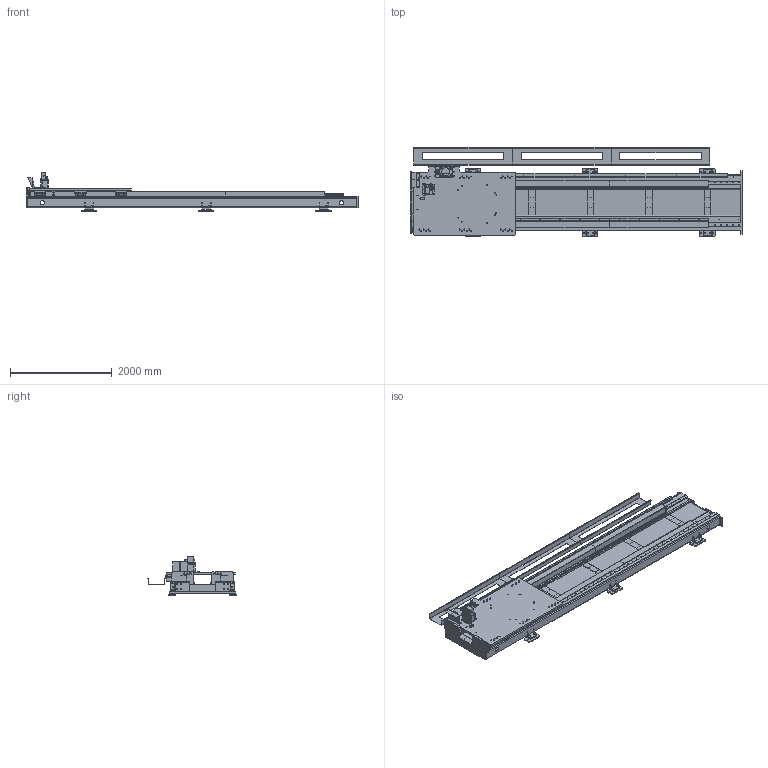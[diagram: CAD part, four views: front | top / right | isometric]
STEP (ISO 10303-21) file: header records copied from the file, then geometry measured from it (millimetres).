
FILE_DESCRIPTION (( 'STEP AP203' ), '1' );
FILE_NAME ('梓袧4000kg迍蟈俋离唳.STEP', '2021-10-27T02:24:30', ( '' ), ( '' ), 'SwSTEP 2.0', 'SolidWorks 2018', '' );
FILE_SCHEMA (( 'CONFIG_CONTROL_DESIGN' ));
Products named in the file (42): 峚雄羲壽假蚾啣; 華寢蟀諉啣; 13.5Ã×YAE-A1-03L263; 重载减速机安装板1; 寥錨硌尨啣-1; 13.5米润滑; 润滑齿轮配件; 19.5譙菁窒遺殤6500-1; circlips for shaft--type a large gb_GB_CONNECTING_PIECE_RING_RRA 12; hex thin nuts-grades ab-chamfered gb_GB_FASTENER_NUT_STNAB M10-N; 1譙喘沭滅誘鍼踢; 13.5米润滑齿轮轴; 13.5譙65-45樓Ч踐; 13.5譙笢潔撻倛奪; 錨璃1; 笭婥華寢覃誹啣; 19.5譙迍蟈羞; 13.5譙華寢華褐; 19.5譙萇儂假蚾啣; 匐粣迍蟈蟀諉啣; 19.5米ST02机器人载板; 13.5譙俴最羲壽; 19.5譙寢耋爾諉遺殤; 13.5譙煦蚐ん; 梓袧4000kg迍蟈俋离唳; 13.5譙華褐啣; 13.5譙滅袉菜; 13.5譙M20蹟裝; 19.5譙樓詢U倰輸; 1950絳寢誘欶; 13.5譙華褐菜啣; SHS55LC賑輸; 重载地轨齿轮防护板; 19.5譙絳寢假蚾啣-1; 19.5米导轨齿条安装板-1; 重载地轨限位挡板; 13.5米润滑轮M4  T17; 諦誧枑鼎喘沭; 13.5米润滑安装座; 13.5譙MA16014215304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
Assembly tree (88 placements, depth 4):
  梓袧4000kg迍蟈俋离唳
    19.5米ST02机器人载板
    19.5譙樓詢U倰輸  x6
    重载地轨限位挡板
    13.5譙熬厒儂假蚾啣
      19.5譙萇儂假蚾啣
      重载减速机安装板1
      13.5米润滑
        circlips for shaft--type a large gb_GB_CONNECTING_PIECE_RING_RRA 12
        13.5米润滑齿轮轴
        13.5米润滑轮M4  T17
        hex thin nuts-grades ab-chamfered gb_GB_FASTENER_NUT_STNAB M10-N
        13.5米润滑安装座
      润滑齿轮配件
    13.5Ã×YAE-A1-03L263
    13.5譙MA16014215304
    13.5譙滅袉菜  x2
    13.5譙煦蚐ん
    笭婥華寢覃誹啣
    重载地轨齿轮防护板
    19.5譙菁窒遺殤6500-1
      19.5譙寢耋爾諉遺殤
        19.5米6.5米地轨框架_默认<按加工>
        19.5譙絳寢假蚾啣-1
        華寢蟀諉啣
        19.5米导轨齿条安装板-1
      13.5譙笢潔撻倛奪  x6
      13.5譙華寢華褐  x3
      13.5譙65-45樓Ч踐  x12
    峚雄羲壽假蚾啣
    13.5譙俴最羲壽
    19.5譙迍蟈羞  x3
    1譙喘沭滅誘鍼踢  x6
    1950絳寢誘欶  x6
    匐粣迍蟈蟀諉啣
    SHS55LC賑輸  x6
    諦誧枑鼎喘沭
    13.5譙華褐啣  x6
      13.5譙華褐菜啣
      13.5譙M20蹟裝
    寥錨硌尨啣-1  x2
    錨璃1
Bounding box: 6520 x 1763 x 751.5 mm (x, y, z)
Volume: 377420777.6 mm3; surface area: 65656644.7 mm2
Topology: 92 solids, 92 shells, 5293 faces, 14173 edges, 9096 vertices
Faces by surface type: cylinder 2723, plane 2146, cone 348, bspline 61, torus 11, sphere 4
Entity records: 311194 total; most frequent: CARTESIAN_POINT 224823, ORIENTED_EDGE 17386, DIRECTION 16337, EDGE_CURVE 8693, AXIS2_PLACEMENT_3D 5923, VERTEX_POINT 5695, LINE 4491, VECTOR 4491
